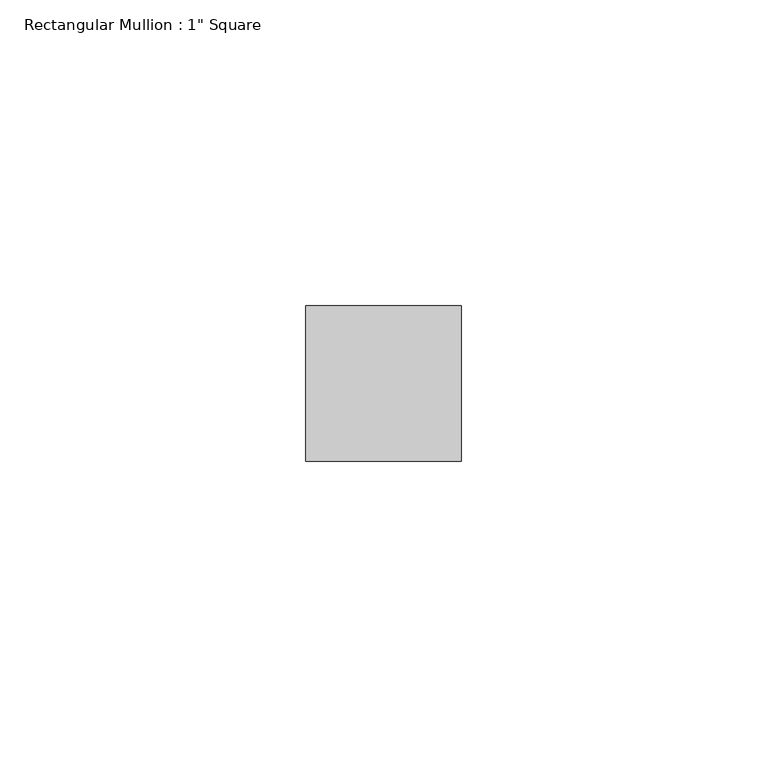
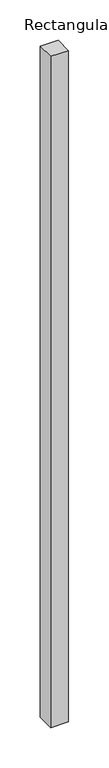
"""IFC4 building model written with IfcOpenShell, lengths in millimetres: member geometry."""

from ifc_helpers import new_model, si_unit, frame, origin, place, context, project, spatial, polyline, outline, extrude, source, transform, mapped, element, save


def member_782630c7(model_context):
    return source(origin(), model_context, "Body", "SweptSolid", [
        extrude(outline(polyline([(12.7, 12.7), (12.7, -12.7), (-12.7, -12.7), (-12.7, 12.7), (12.7, 12.7)])), frame((0.0, 0.0, -1013.9488818), z_axis=(0.0, 0.0, 1.0), x_axis=(1.0, 0.0, 0.0)), (0.0, 0.0, 1.0), 1013.9488818),
    ])


if __name__ == "__main__":
    model = new_model("IFC4")
    model_context = context("Model", 3, world=origin())
    ifc_project = project(units=[si_unit("LENGTHUNIT", "METRE", prefix="MILLI")], contexts=[model_context])
    site = spatial("IfcSite", under=ifc_project)
    building = spatial("IfcBuilding", under=site)
    placement = place(None, origin())
    member_shape = member_782630c7(model_context)
    element("IfcMember", 1, ObjectType="Rectangular Mullion : 1\" Square", at=placement, inside=building, context=model_context, shape_type="MappedRepresentation", body=[
        mapped(member_shape, transform((0.0, 0.0, 0.0), x_axis=(1.0, 0.0, 0.0), y_axis=(0.0, 1.0, 0.0), z_axis=(0.0, 0.0, 1.0))),
    ])
    save(model, "model.ifc")
